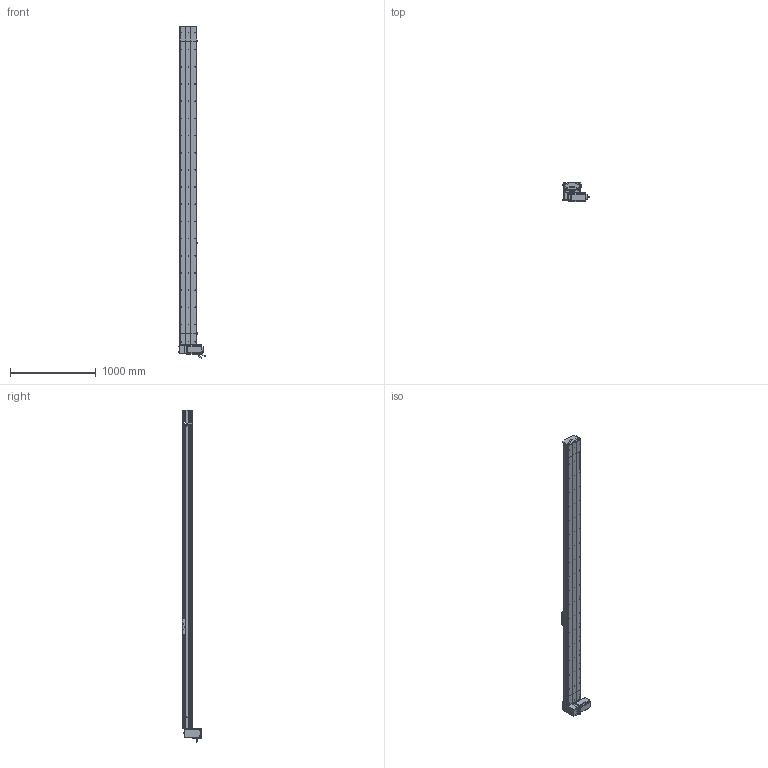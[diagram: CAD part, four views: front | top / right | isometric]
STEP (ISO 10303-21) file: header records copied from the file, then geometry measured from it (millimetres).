
FILE_DESCRIPTION (( 'STEP AP214' ), '1' );
FILE_NAME ('D20 TBH RU S3400.STEP', '2010-07-01T08:57:48', ( 'Conseil Régional Haute-Normandie' ), ( 'Conseil Régional Haute-Normandie' ), 'SwSTEP 2.0', 'SolidWorks 2010', '' );
FILE_SCHEMA (( 'AUTOMOTIVE_DESIGN' ));
Length unit declared in the file: millimetre
Products named in the file (40): tail D20_Default; corp D20 S3400_Default; vis M5 L70_Default; rail + couroie  D20 S3400; couvercle D20 S3400_Default; avant 110BLDC170A-630x; Plaque racord D20LH_Default; Renvoi RU D20_Default; vis M5 L25_Default; cache arbre D20_Default; plaque de  bout head D20B RU_Default; poulie head D20_Default; vis M5 L5_Default; couroie_Default; cache D20_Default; couvercle head D20_Default; rail head D20; corpl head D20_Default; Moteur motionking 110BLDC170A-640x; head RU_Default; poulie tail D20_Default; corpl tail D20_Default; tete d''axe poulie D20B; rail tail D20; vis M5 L8 90°_Default; couvercle tail D20_Default; Couroie tail D20_Default; plaque de  bout tail D20_Default; Conecteur_Default; Conecteur2_Default; codeur 110BLDC170A-630x; clavette; vis M5 L12_Default; vis M8 L12_Default; corps 110BLDC170A-630x; chariot D20B_Default; D20 TBH RU S3400; Course B L3400_Default; guide D20B; Chariot D20B
Assembly tree (71 placements, depth 4):
  D20 TBH RU S3400
    tail D20_Default
      vis M5 L8 90°_Default  x2
      Couroie tail D20_Default
      plaque de  bout tail D20_Default
      vis M5 L12_Default  x4
      vis M5 L25_Default  x2
      poulie tail D20_Default
      tete d''axe poulie D20B
      couvercle tail D20_Default
      corpl tail D20_Default
      rail tail D20
    chariot D20B_Default
      vis M5 L12_Default  x4
      guide D20B  x2
      Chariot D20B
    head RU_Default
      Plaque racord D20LH_Default
      vis M5 L5_Default  x4
      rail head D20
      vis M5 L70_Default  x4
      vis M5 L12_Default  x10
      corpl head D20_Default
      vis M8 L12_Default  x4
      Renvoi RU D20_Default
      Moteur motionking 110BLDC170A-640x
        Conecteur2_Default
        clavette
        corps 110BLDC170A-630x
        avant 110BLDC170A-630x
        Conecteur_Default
        codeur 110BLDC170A-630x
      couvercle head D20_Default
      vis M5 L25_Default  x2
      couroie_Default
      plaque de  bout head D20B RU_Default
      cache D20_Default  x2
      cache arbre D20_Default
      poulie head D20_Default
    Course B L3400_Default
      rail + couroie  D20 S3400
      corp D20 S3400_Default
      couvercle D20 S3400_Default
Bounding box: 304.2 x 223.2 x 3865 mm (x, y, z)
Volume: 29812586.8 mm3; surface area: 7399866.6 mm2
Topology: 95 solids, 95 shells, 2896 faces, 7488 edges, 4843 vertices
Faces by surface type: plane 1647, cylinder 925, bspline 136, cone 99, torus 89
Entity records: 94549 total; most frequent: CARTESIAN_POINT 30933, ORIENTED_EDGE 11632, DIRECTION 10897, EDGE_CURVE 5816, VERTEX_POINT 3829, VECTOR 3647, LINE 3647, AXIS2_PLACEMENT_3D 3625
